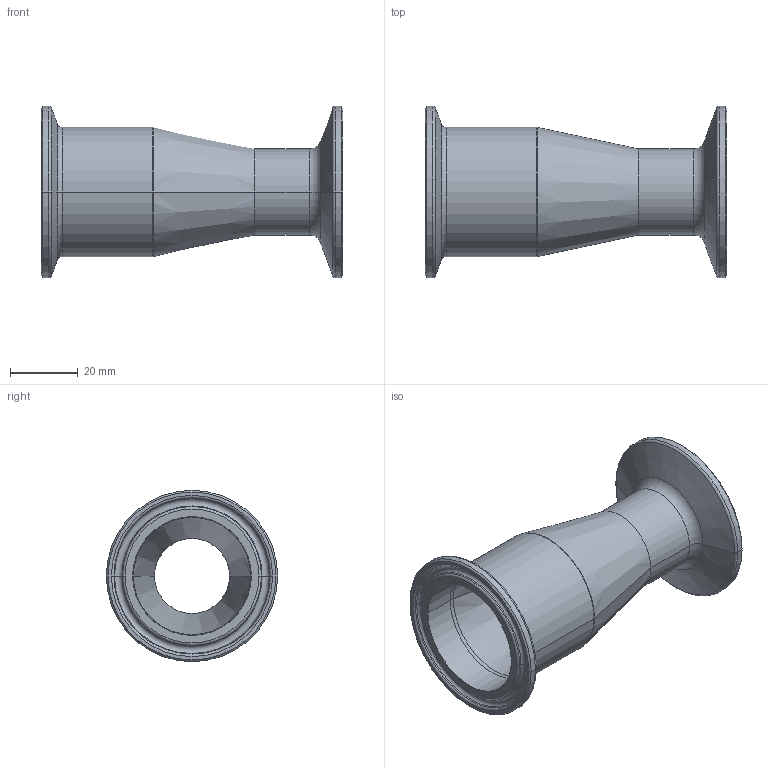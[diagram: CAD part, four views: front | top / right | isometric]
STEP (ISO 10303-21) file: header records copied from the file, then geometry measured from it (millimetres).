
FILE_DESCRIPTION (( 'STEP AP214' ), '1' );
FILE_NAME ('TEG31SCC6I1.5x1.0.STEP', '2016-05-29T13:53:23', ( 'eran' ), ( '' ), 'SwSTEP 2.0', 'SolidWorks 2016', '' );
FILE_SCHEMA (( 'AUTOMOTIVE_DESIGN' ));
Length unit declared in the file: millimetre
Products named in the file (1): TEG31SCC6I1.5x1.0
Bounding box: 88.9 x 50.5 x 50.5 mm (x, y, z)
Volume: 35350.9 mm3; surface area: 21476.6 mm2
Topology: 1 solids, 1 shells, 66 faces, 132 edges, 70 vertices
Faces by surface type: torus 26, cone 24, cylinder 12, plane 4
Entity records: 1738 total; most frequent: DIRECTION 362, CARTESIAN_POINT 269, ORIENTED_EDGE 264, AXIS2_PLACEMENT_3D 163, EDGE_CURVE 132, CIRCLE 96, VERTEX_POINT 70, EDGE_LOOP 70
